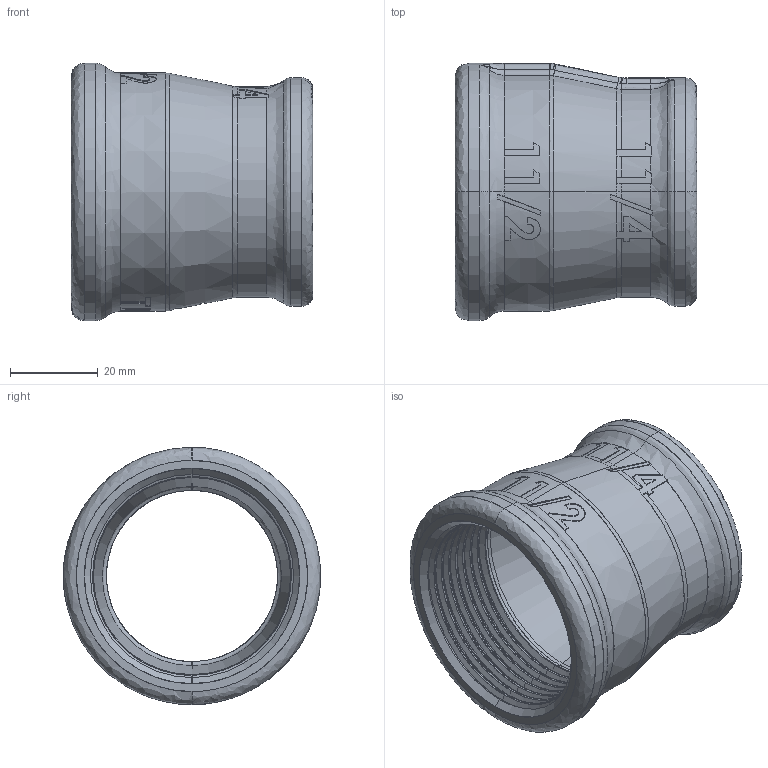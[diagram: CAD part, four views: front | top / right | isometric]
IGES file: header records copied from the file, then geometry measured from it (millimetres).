
Start section: SolidWorks IGES file using analytic representation for surfaces
Global section: file name: C:\Users\Joel Rosa\Desktop\Tubulação\12-32-OK\12-32-042.IGS; native system: SolidWorks 2011; preprocessor: SolidWorks 2011; author: Joel Rosa; date: 121208.225335; units: millimetre
Bounding box: 55 x 58.6 x 58.6 mm (x, y, z)
Surface area: 21817.3 mm2 (no closed solid volume)
Topology: 0 solids, 0 shells, 414 faces, 3247 edges, 3243 vertices
Faces by surface type: bspline 293, revolution 121
